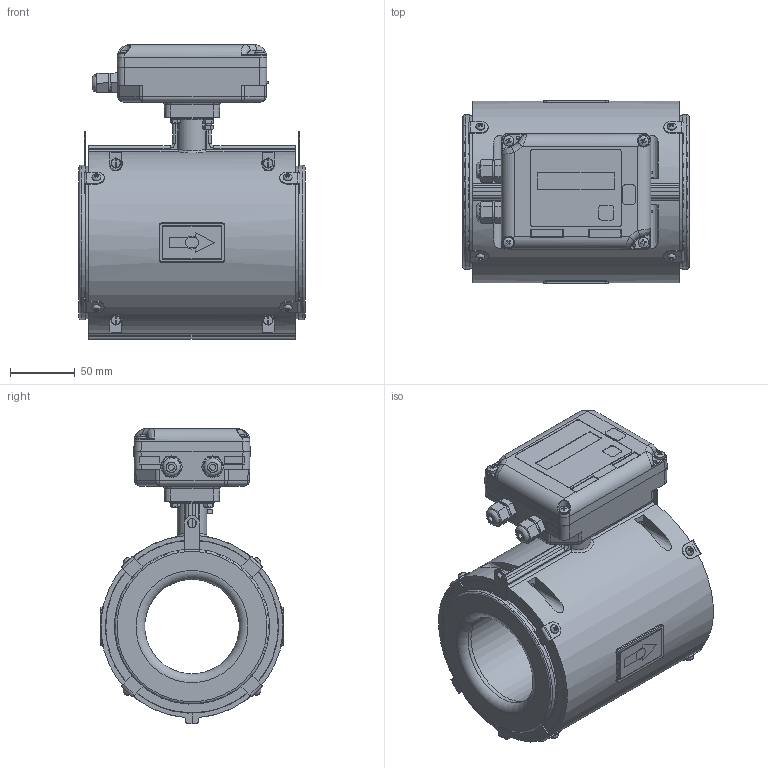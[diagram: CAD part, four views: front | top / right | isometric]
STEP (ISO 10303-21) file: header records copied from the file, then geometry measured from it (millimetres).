
FILE_DESCRIPTION(('STEP AP242'), '1');
FILE_NAME('1_ØÊÑÄ.407212.032-003 Ðàñõîäîìåð-ñ÷¸ò÷èê ýëåêòðîìàãíèòíûé Âçë¸ò èñïîëíåíèå Ëàéò Ì', '', ('UNSPECIFIED'), ('UNSPECIFIED'), 'ASCON STEP Converter 1.6', 'ASCON Math Kernel', '');
FILE_SCHEMA(('AP242_MANAGED_MODEL_BASED_3D_ENGINEERING_MIM_LF { 1 0 10303 442 1 1 4 }'));
Length unit declared in the file: millimetre
Products named in the file (1): 婽挭.407212.032-003.03-003.10
Bounding box: 175 x 142 x 228.5 mm (x, y, z)
Volume: 1012490.7 mm3; surface area: 586689 mm2
Topology: 83 solids, 83 shells, 2405 faces, 5678 edges, 3495 vertices
Faces by surface type: plane 1171, cylinder 614, cone 309, bspline 231, torus 60, sphere 20
Full cylindrical faces by diameter (mm): 2 x4, 2.3 x9, 2.4 x2, 3 x10, 3.242 x13, 3.422 x4, 4 x22, 4.3 x8, 4.5 x22, 5 x8, 5.5 x8, 6 x2, 7 x28, 7.5 x4, 7.65 x1, 8 x7, 9 x7, 10 x1, 12 x6, 12.2 x2, 12.5 x2, 15 x2, 16.5 x2, 17 x1, 18 x1, 74 x1, 81 x2, 83 x2, 88 x4, 89 x1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
Entity records: 149287 total; most frequent: CARTESIAN_POINT 78685, ORIENTED_EDGE 10326, DIRECTION 9549, EDGE_CURVE 5163, AXIS2_PLACEMENT_3D 3546, VERTEX_POINT 3481, EDGE_LOOP 3150, COLOUR_RGB 2488
